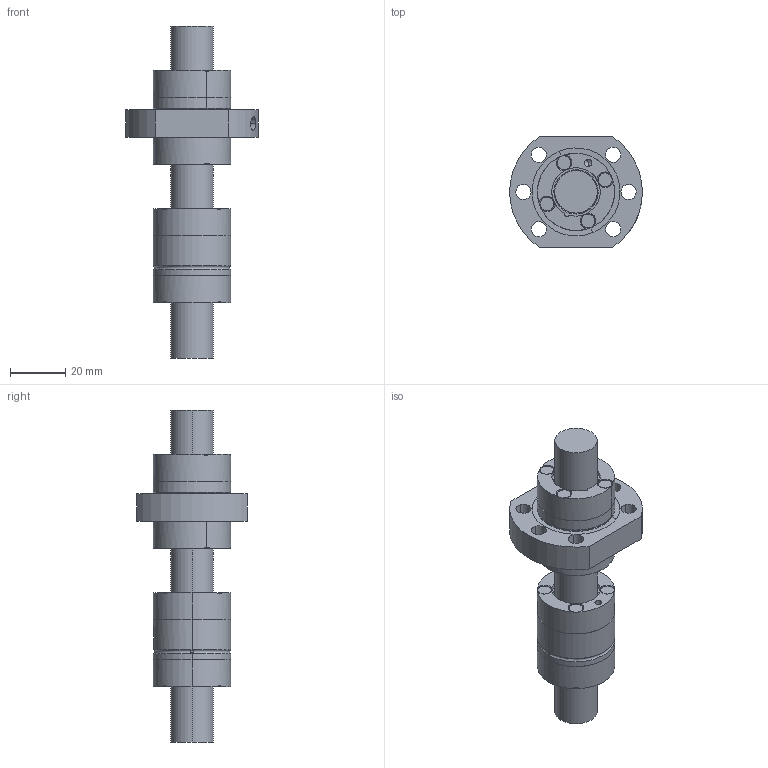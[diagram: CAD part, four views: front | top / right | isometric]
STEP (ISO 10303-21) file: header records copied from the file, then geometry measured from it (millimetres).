
FILE_DESCRIPTION(('Creo Elements/Direct Modeling STEP Export'),'2;1');
FILE_NAME('HSB-KGT-M-1605RH-1g.stp','2020-09-17T10:07:16',(''),(''),'Creo Elements/Direct Modeling STEP processor for AP214 (Solid Model)','Creo Elements/Direct Modeling 20.1C 13-Oct-2019 (C) Parametric Technology GmbH','');
FILE_SCHEMA(('AUTOMOTIVE_DESIGN { 1 0 10303 214 1 1 1 1 }'));
Length unit declared in the file: millimetre
Products named in the file (4): HSB-KGS-1605RH-1g-T7_21445; HSB-KGM-M-1605RH-1g_21074; HSB-KGM-F-1605RH-1g_30002; HSB-KGT-M-1605RH-1g
Assembly tree (3 placements, depth 2):
  HSB-KGT-M-1605RH-1g
    HSB-KGM-F-1605RH-1g_30002
    HSB-KGM-M-1605RH-1g_21074
    HSB-KGS-1605RH-1g-T7_21445
Bounding box: 48 x 40 x 120 mm (x, y, z)
Volume: 59594.5 mm3; surface area: 21022.4 mm2
Topology: 3 solids, 3 shells, 432 faces, 1243 edges, 823 vertices
Faces by surface type: plane 262, cylinder 88, cone 78, torus 4
Entity records: 21471 total; most frequent: CARTESIAN_POINT 10244, ORIENTED_EDGE 2478, DIRECTION 1574, EDGE_CURVE 1239, VERTEX_POINT 823, AXIS2_PLACEMENT_3D 593, B_SPLINE_CURVE_WITH_KNOTS 488, EDGE_LOOP 458
